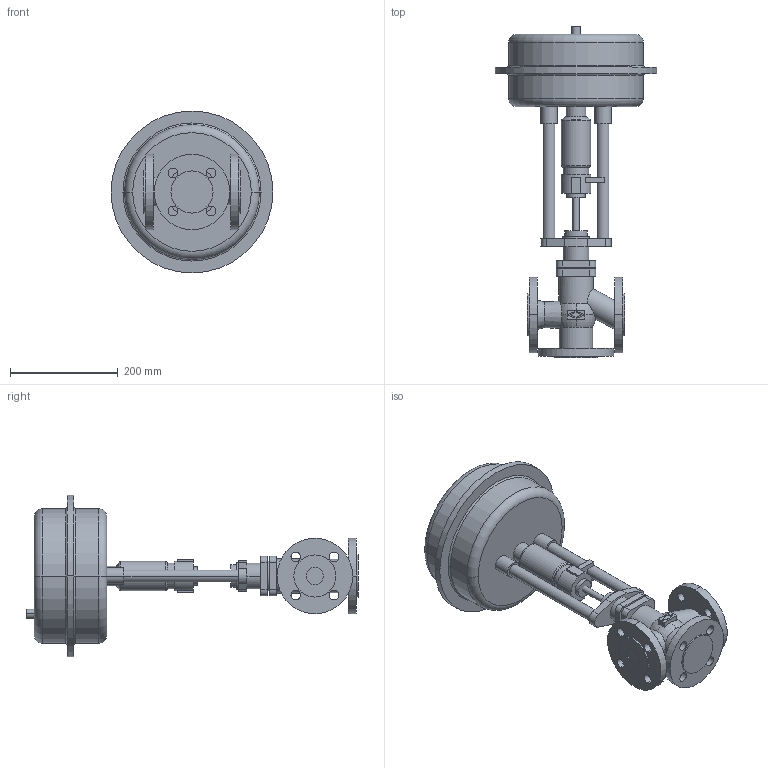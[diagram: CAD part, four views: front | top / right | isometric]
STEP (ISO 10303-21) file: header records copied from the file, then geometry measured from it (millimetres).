
FILE_DESCRIPTION(('OneSpaceDesigner STEP Export'),'2;1');
FILE_NAME('c000000663.stp','2006-09-19T10:00:37',(''),(''),'OneSpace Designer STEP processor for AP214 (Solid Model)','OneSpace Designer 13.20A 18-Aug-2005 (C) CoCreate Software GmbH','');
FILE_SCHEMA(('AUTOMOTIVE_DESIGN { 1 0 10303 214 1 1 1 1 }'));
Length unit declared in the file: millimetre
Products named in the file (2): 1; 2
Bounding box: 300 x 615.6 x 300 mm (x, y, z)
Volume: 8959567.4 mm3; surface area: 496444.1 mm2
Topology: 2 solids, 2 shells, 206 faces, 502 edges, 328 vertices
Faces by surface type: cylinder 94, plane 81, torus 23, cone 8
Entity records: 5533 total; most frequent: CARTESIAN_POINT 1080, ORIENTED_EDGE 1004, DIRECTION 808, EDGE_CURVE 502, VERTEX_POINT 328, AXIS2_PLACEMENT_3D 294, EDGE_LOOP 258, VECTOR 220
